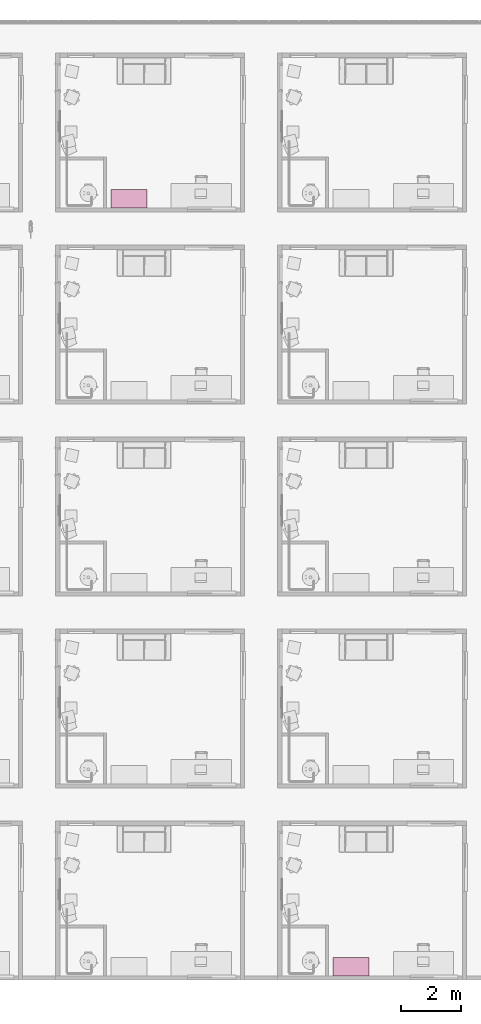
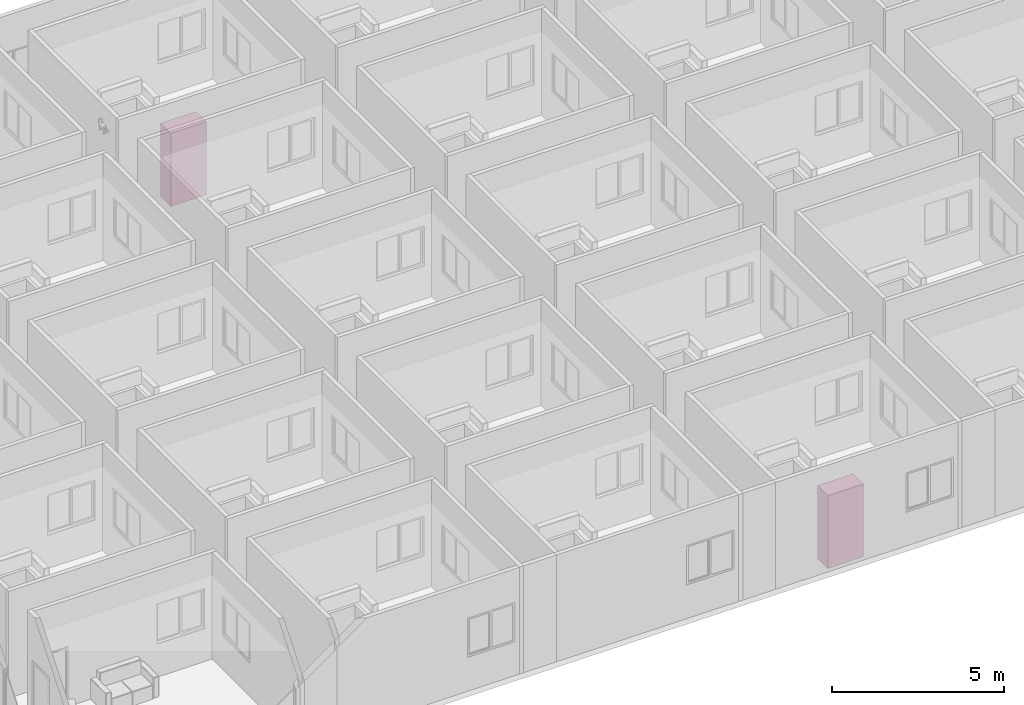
# One storey, part 62 of 69: 2 furniture elements.
"""IFC4 building model written with IfcOpenShell, lengths in centimetres."""

from ifc_helpers import new_model, entity, si_unit, converted_unit, derived_unit, direction, frame, origin, place, context, subcontext, project, spatial, indexed_curve, outline, extrude, source, transform, mapped, material, type_object, type_shapes, element, save


model = new_model("IFC4")

# Units and contexts
model_context = context("Model", 3, precision=0.001, world=origin(), true_north=direction((6.123233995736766e-17, 1.0)))
body_context = subcontext(model_context, "Body", "Model", "MODEL_VIEW")
ifc_project = project(units=[si_unit("LENGTHUNIT", "METRE", prefix="CENTI"), si_unit("AREAUNIT", "SQUARE_METRE"), si_unit("VOLUMEUNIT", "CUBIC_METRE"), derived_unit("THERMALTRANSMITTANCEUNIT", [(si_unit("MASSUNIT", "GRAM", prefix="KILO"), 1), (si_unit("THERMODYNAMICTEMPERATUREUNIT", "KELVIN"), -1), (si_unit("TIMEUNIT", "SECOND"), -3)]), converted_unit("PLANEANGLEUNIT", "DEGREE", entity("IfcPlaneAngleMeasure", 0.017453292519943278), si_unit("PLANEANGLEUNIT", "RADIAN"), dimensions=[0, 0, 0, 0, 0, 0, 0]), derived_unit("MASSDENSITYUNIT", [(si_unit("MASSUNIT", "GRAM", prefix="KILO"), 1), (si_unit("LENGTHUNIT", "METRE"), -3)]), derived_unit("VAPORPERMEABILITYUNIT", [(si_unit("LENGTHUNIT", "METRE"), -1), (si_unit("TIMEUNIT", "SECOND"), 1)]), derived_unit("USERDEFINED", [(si_unit("MASSUNIT", "GRAM", prefix="KILO"), 1), (si_unit("TIMEUNIT", "SECOND"), -3), (si_unit("LENGTHUNIT", "METRE"), 3), (si_unit("ELECTRICCURRENTUNIT", "AMPERE"), -2)]), derived_unit("SPECIFICHEATCAPACITYUNIT", [(si_unit("THERMODYNAMICTEMPERATUREUNIT", "KELVIN"), -1), (si_unit("LENGTHUNIT", "METRE"), 2), (si_unit("TIMEUNIT", "SECOND"), -2)]), derived_unit("THERMALCONDUCTANCEUNIT", [(si_unit("MASSUNIT", "GRAM", prefix="KILO"), 1), (si_unit("THERMODYNAMICTEMPERATUREUNIT", "KELVIN"), -1), (si_unit("TIMEUNIT", "SECOND"), -3), (si_unit("LENGTHUNIT", "METRE"), 1)]), si_unit("PRESSUREUNIT", "PASCAL"), derived_unit("MODULUSOFELASTICITYUNIT", [(si_unit("MASSUNIT", "GRAM", prefix="KILO"), 1), (si_unit("LENGTHUNIT", "METRE"), -1), (si_unit("TIMEUNIT", "SECOND"), -2)]), derived_unit("THERMALEXPANSIONCOEFFICIENTUNIT", [(si_unit("THERMODYNAMICTEMPERATUREUNIT", "KELVIN"), -1)])], contexts=[model_context])

# Site, building, storey, space
site_placement = place(None, origin())
site = spatial("IfcSite", under=ifc_project, at=site_placement, Name="Default", CompositionType="ELEMENT")
building_placement = place(site_placement, origin())
building = spatial("IfcBuilding", under=site, at=building_placement, Name="IDS Escape Game Building", CompositionType="ELEMENT")
storey_placement = place(building_placement, origin())
storey = spatial("IfcBuildingStorey", under=building, at=storey_placement, Name="00_Ground Floor", CompositionType="ELEMENT", Elevation=0.0)
space_1_placement = place(storey_placement, origin())
space_1 = spatial("IfcSpace", under=storey, at=space_1_placement, Name="5", CompositionType="ELEMENT", PredefinedType="NOTDEFINED")

# Furniture
ifc_material = material(Name="<Unnamed>")
furniture_type = type_object("IfcFurnitureType", Name="BPL_82.11_CA_UN_kast_gen_BERSnl:type 1", AssemblyPlace="NOTDEFINED", PredefinedType="NOTDEFINED", material=ifc_material)
shared_shape = source(origin(), body_context, "Body", "SweptSolid", [
    extrude(outline(indexed_curve([(-59.99999999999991, -29.999999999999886), (59.99999999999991, -29.999999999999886), (59.99999999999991, 29.999999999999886), (-59.99999999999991, 29.999999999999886), (-59.99999999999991, -29.999999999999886)], self_intersect=False)), frame((-60.0, -30.0, 0.0), z_axis=(0.0, 0.0, 1.0), x_axis=(-1.0, 0.0, 0.0)), (0.0, 0.0, 1.0), 260.0),
])
type_shapes(furniture_type, [shared_shape])
furniture_1_placement = place(space_1_placement, frame((3249.0, 73.0, 0.0)))
element("IfcFurniture", 1, at=furniture_1_placement, inside=space_1, type_object=furniture_type, material=ifc_material, Name="BPL_82.11_CA_UN_kast_gen_BERSnl:type 1", ObjectType="BPL_82.11_CA_UN_kast_gen_BERSnl:type 1", PredefinedType="NOTDEFINED", context=body_context, shape_type="MappedRepresentation", body=[
    mapped(shared_shape, transform((0.0, 0.0, 0.0), scale=1.0)),
])

# Space
space_2_placement = place(storey_placement, origin())
space_2 = spatial("IfcSpace", under=storey, at=space_2_placement, Name="32", CompositionType="ELEMENT", PredefinedType="NOTDEFINED")

# Furniture
furniture_2_placement = place(space_2_placement, frame((2511.0, 2625.0, 0.0)))
element("IfcFurniture", 2, at=furniture_2_placement, inside=space_2, type_object=furniture_type, material=ifc_material, Name="BPL_82.11_CA_UN_kast_gen_BERSnl:type 1", ObjectType="BPL_82.11_CA_UN_kast_gen_BERSnl:type 1", PredefinedType="NOTDEFINED", context=body_context, shape_type="MappedRepresentation", body=[
    mapped(shared_shape, transform((0.0, 0.0, 0.0), scale=1.0)),
])

save(model, "model.ifc")
